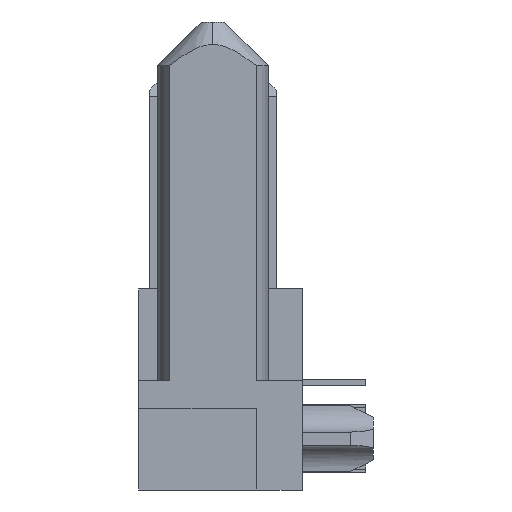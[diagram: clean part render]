
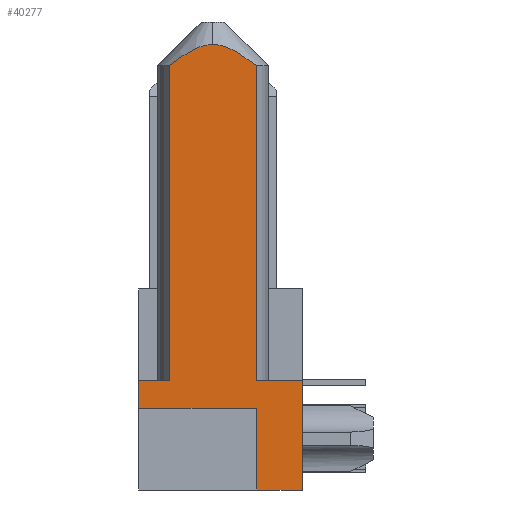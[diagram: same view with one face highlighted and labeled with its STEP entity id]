
A CAD part, left-side view. The second image highlights one B-rep face of the part: STEP entity #40277.
In plain terms, the highlighted planar face has unit normal (-1, 0, 0).
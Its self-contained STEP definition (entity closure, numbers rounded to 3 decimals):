
#1632 = B_SPLINE_CURVE_WITH_KNOTS ( 'NONE', 3,
 ( #11481, #11499, #11501, #11502, #11503, #11504, #11505, #11506, #11507, #11508 ),
 .UNSPECIFIED., .F., .F.,
 ( 4, 2, 2, 2, 4 ),
 ( 0., 0.001, 0.002, 0.002, 0.002 ),
 .UNSPECIFIED. ) ;
#1803 = B_SPLINE_CURVE_WITH_KNOTS ( 'NONE', 3,
 ( #3464, #3465, #3470, #3471, #3472, #3473, #3474, #3475, #3476, #3477 ),
 .UNSPECIFIED., .F., .F.,
 ( 4, 2, 2, 2, 4 ),
 ( 0.002, 0.003, 0.003, 0.004, 0.005 ),
 .UNSPECIFIED. ) ;
#2634 = CARTESIAN_POINT ( 'NONE',  ( -18.01, 7.85, -9.3 ) ) ;
#2658 = DIRECTION ( 'NONE',  ( -1., 0., 0. ) ) ;
#2694 = DIRECTION ( 'NONE',  ( 0., 0., 1. ) ) ;
#2752 = FACE_OUTER_BOUND ( 'NONE', #30532, .T. ) ;
#2998 = PLANE ( 'NONE',  #23805 ) ;
#3464 = CARTESIAN_POINT ( 'NONE',  ( -18.01, -1.38, 11.09 ) ) ;
#3465 = CARTESIAN_POINT ( 'NONE',  ( -18.01, -1.193, 11.09 ) ) ;
#3470 = CARTESIAN_POINT ( 'NONE',  ( -18.01, -1.005, 11.055 ) ) ;
#3471 = CARTESIAN_POINT ( 'NONE',  ( -18.01, -0.647, 10.936 ) ) ;
#3472 = CARTESIAN_POINT ( 'NONE',  ( -18.01, -0.478, 10.854 ) ) ;
#3473 = CARTESIAN_POINT ( 'NONE',  ( -18.01, -0.15, 10.67 ) ) ;
#3474 = CARTESIAN_POINT ( 'NONE',  ( -18.01, 0.009, 10.567 ) ) ;
#3475 = CARTESIAN_POINT ( 'NONE',  ( -18.01, 0.318, 10.35 ) ) ;
#3476 = CARTESIAN_POINT ( 'NONE',  ( -18.01, 0.468, 10.237 ) ) ;
#3477 = CARTESIAN_POINT ( 'NONE',  ( -18.01, 0.617, 10.12 ) ) ;
#7502 = CARTESIAN_POINT ( 'NONE',  ( -18.01, 2.02, -4.3 ) ) ;
#9271 = VECTOR ( 'NONE', #10787, 1000. ) ;
#9302 = VECTOR ( 'NONE', #10862, 1000. ) ;
#10777 = CARTESIAN_POINT ( 'NONE',  ( -18.01, -5.48, -9.3 ) ) ;
#10783 = LINE ( 'NONE', #10777, #9271 ) ;
#10787 = DIRECTION ( 'NONE',  ( 0., 0., 1. ) ) ;
#10854 = LINE ( 'NONE', #10861, #9302 ) ;
#10861 = CARTESIAN_POINT ( 'NONE',  ( -18.01, -3.38, -9.3 ) ) ;
#10862 = DIRECTION ( 'NONE',  ( 0., 0., -1. ) ) ;
#11044 = CARTESIAN_POINT ( 'NONE',  ( -18.01, 0.617, -4.3 ) ) ;
#11481 = CARTESIAN_POINT ( 'NONE',  ( -18.01, -3.377, 10.12 ) ) ;
#11499 = CARTESIAN_POINT ( 'NONE',  ( -18.01, -3.081, 10.353 ) ) ;
#11501 = CARTESIAN_POINT ( 'NONE',  ( -18.01, -2.778, 10.576 ) ) ;
#11502 = CARTESIAN_POINT ( 'NONE',  ( -18.01, -2.286, 10.853 ) ) ;
#11503 = CARTESIAN_POINT ( 'NONE',  ( -18.01, -2.114, 10.935 ) ) ;
#11504 = CARTESIAN_POINT ( 'NONE',  ( -18.01, -1.846, 11.024 ) ) ;
#11505 = CARTESIAN_POINT ( 'NONE',  ( -18.01, -1.755, 11.048 ) ) ;
#11506 = CARTESIAN_POINT ( 'NONE',  ( -18.01, -1.569, 11.081 ) ) ;
#11507 = CARTESIAN_POINT ( 'NONE',  ( -18.01, -1.474, 11.09 ) ) ;
#11508 = CARTESIAN_POINT ( 'NONE',  ( -18.01, -1.38, 11.09 ) ) ;
#13866 = VECTOR ( 'NONE', #15086, 1000. ) ;
#13941 = VECTOR ( 'NONE', #16028, 1000. ) ;
#14144 = VECTOR ( 'NONE', #17144, 1000. ) ;
#15067 = LINE ( 'NONE', #15076, #13866 ) ;
#15076 = CARTESIAN_POINT ( 'NONE',  ( -18.01, 2.02, -9.3 ) ) ;
#15086 = DIRECTION ( 'NONE',  ( 0., 0., -1. ) ) ;
#15331 = CARTESIAN_POINT ( 'NONE',  ( -18.01, -3.38, -9.3 ) ) ;
#15397 = CARTESIAN_POINT ( 'NONE',  ( -18.01, 2.02, -5.55 ) ) ;
#15923 = CARTESIAN_POINT ( 'NONE',  ( -18.01, -1.38, 11.09 ) ) ;
#16018 = LINE ( 'NONE', #16024, #13941 ) ;
#16024 = CARTESIAN_POINT ( 'NONE',  ( -18.01, -3.377, 30.051 ) ) ;
#16028 = DIRECTION ( 'NONE',  ( 0., 0., -1. ) ) ;
#16329 = ORIENTED_EDGE ( 'NONE', *, *, #50960, .T. ) ;
#16331 = ORIENTED_EDGE ( 'NONE', *, *, #47336, .T. ) ;
#16337 = ORIENTED_EDGE ( 'NONE', *, *, #50741, .F. ) ;
#16338 = ORIENTED_EDGE ( 'NONE', *, *, #49788, .T. ) ;
#16377 = ORIENTED_EDGE ( 'NONE', *, *, #49455, .T. ) ;
#17139 = LINE ( 'NONE', #17143, #14144 ) ;
#17143 = CARTESIAN_POINT ( 'NONE',  ( -18.01, 0.617, 30.051 ) ) ;
#17144 = DIRECTION ( 'NONE',  ( 0., 0., -1. ) ) ;
#20066 = VERTEX_POINT ( 'NONE', #15397 ) ;
#20238 = VERTEX_POINT ( 'NONE', #15331 ) ;
#20835 = VERTEX_POINT ( 'NONE', #15923 ) ;
#21411 = VERTEX_POINT ( 'NONE', #28701 ) ;
#21654 = VERTEX_POINT ( 'NONE', #28571 ) ;
#21726 = VERTEX_POINT ( 'NONE', #28532 ) ;
#21804 = VERTEX_POINT ( 'NONE', #28474 ) ;
#22738 = VECTOR ( 'NONE', #24385, 1000. ) ;
#23805 = AXIS2_PLACEMENT_3D ( 'NONE', #2634, #2658, #2694 ) ;
#24362 = LINE ( 'NONE', #24382, #22738 ) ;
#24382 = CARTESIAN_POINT ( 'NONE',  ( -18.01, 7.85, -4.3 ) ) ;
#24385 = DIRECTION ( 'NONE',  ( 0., -1., 0. ) ) ;
#25863 = VECTOR ( 'NONE', #27061, 1000. ) ;
#26130 = VECTOR ( 'NONE', #27549, 1000. ) ;
#27032 = CARTESIAN_POINT ( 'NONE',  ( -18.01, 7.85, -4.3 ) ) ;
#27039 = LINE ( 'NONE', #27032, #25863 ) ;
#27061 = DIRECTION ( 'NONE',  ( 0., -1., 0. ) ) ;
#27547 = LINE ( 'NONE', #27548, #26130 ) ;
#27548 = CARTESIAN_POINT ( 'NONE',  ( -18.01, 7.85, -5.55 ) ) ;
#27549 = DIRECTION ( 'NONE',  ( 0., -1., 0. ) ) ;
#27616 = CARTESIAN_POINT ( 'NONE',  ( -18.01, 0.617, 10.12 ) ) ;
#27640 = CARTESIAN_POINT ( 'NONE',  ( -18.01, -3.38, -5.55 ) ) ;
#28474 = CARTESIAN_POINT ( 'NONE',  ( -18.01, -3.377, 10.12 ) ) ;
#28532 = CARTESIAN_POINT ( 'NONE',  ( -18.01, -5.48, -4.3 ) ) ;
#28571 = CARTESIAN_POINT ( 'NONE',  ( -18.01, -3.377, -4.3 ) ) ;
#28701 = CARTESIAN_POINT ( 'NONE',  ( -18.01, -5.48, -9.3 ) ) ;
#30532 = EDGE_LOOP ( 'NONE', ( #16337, #16338, #16331, #16329, #35202, #35593, #36178, #16377, #36190, #35881, #36099 ) ) ;
#32784 = VECTOR ( 'NONE', #38825, 1000. ) ;
#35202 = ORIENTED_EDGE ( 'NONE', *, *, #51776, .F. ) ;
#35470 = VERTEX_POINT ( 'NONE', #27640 ) ;
#35479 = VERTEX_POINT ( 'NONE', #27616 ) ;
#35593 = ORIENTED_EDGE ( 'NONE', *, *, #50661, .T. ) ;
#35881 = ORIENTED_EDGE ( 'NONE', *, *, #49405, .T. ) ;
#36099 = ORIENTED_EDGE ( 'NONE', *, *, #51518, .F. ) ;
#36178 = ORIENTED_EDGE ( 'NONE', *, *, #51870, .T. ) ;
#36190 = ORIENTED_EDGE ( 'NONE', *, *, #52417, .T. ) ;
#38823 = LINE ( 'NONE', #38824, #32784 ) ;
#38824 = CARTESIAN_POINT ( 'NONE',  ( -18.01, 7.85, -9.3 ) ) ;
#38825 = DIRECTION ( 'NONE',  ( 0., -1., 0. ) ) ;
#40277 = ADVANCED_FACE ( 'NONE', ( #2752 ), #2998, .T. ) ;
#47336 = EDGE_CURVE ( 'NONE', #20835, #35479, #1803, .T. ) ;
#48383 = VERTEX_POINT ( 'NONE', #7502 ) ;
#49405 = EDGE_CURVE ( 'NONE', #21411, #21726, #10783, .T. ) ;
#49455 = EDGE_CURVE ( 'NONE', #35470, #20238, #10854, .T. ) ;
#49573 = VERTEX_POINT ( 'NONE', #11044 ) ;
#49788 = EDGE_CURVE ( 'NONE', #21804, #20835, #1632, .T. ) ;
#50661 = EDGE_CURVE ( 'NONE', #48383, #20066, #15067, .T. ) ;
#50741 = EDGE_CURVE ( 'NONE', #21804, #21654, #16018, .T. ) ;
#50960 = EDGE_CURVE ( 'NONE', #35479, #49573, #17139, .T. ) ;
#51518 = EDGE_CURVE ( 'NONE', #21654, #21726, #24362, .T. ) ;
#51776 = EDGE_CURVE ( 'NONE', #48383, #49573, #27039, .T. ) ;
#51870 = EDGE_CURVE ( 'NONE', #20066, #35470, #27547, .T. ) ;
#52417 = EDGE_CURVE ( 'NONE', #20238, #21411, #38823, .T. ) ;
